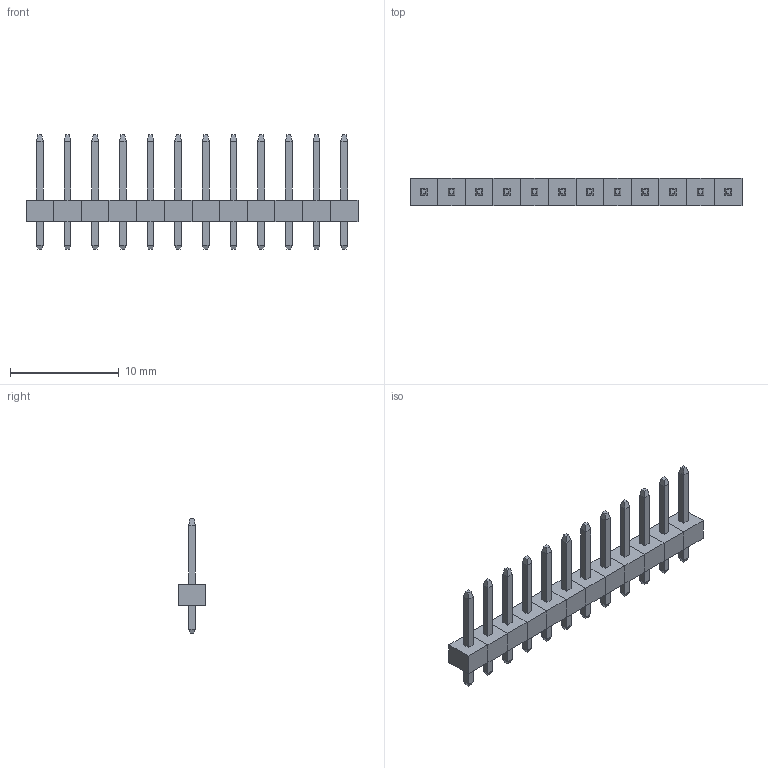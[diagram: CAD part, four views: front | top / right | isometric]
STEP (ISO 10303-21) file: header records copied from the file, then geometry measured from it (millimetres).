
FILE_DESCRIPTION(('shape.step'),'2;1');
FILE_NAME('shape.step','2026-11-03',('tscircuit'),('tscircuit'),'generator','','');
FILE_SCHEMA(('AUTOMOTIVE_DESIGN { 1 0 10303 214 1 1 1 1 }'));
Length unit declared in the file: millimetre
Products named in the file (1): shape
Bounding box: 30.48 x 2.54 x 10.5 mm (x, y, z)
Volume: 196.2 mm3; surface area: 679.4 mm2
Topology: 36 solids, 36 shells, 312 faces, 624 edges, 384 vertices
Faces by surface type: plane 312
Entity records: 7384 total; most frequent: DIRECTION 1250, ORIENTED_EDGE 1248, CARTESIAN_POINT 697, VECTOR 624, LINE 624, EDGE_CURVE 624, VERTEX_POINT 384, AXIS2_PLACEMENT_3D 313
